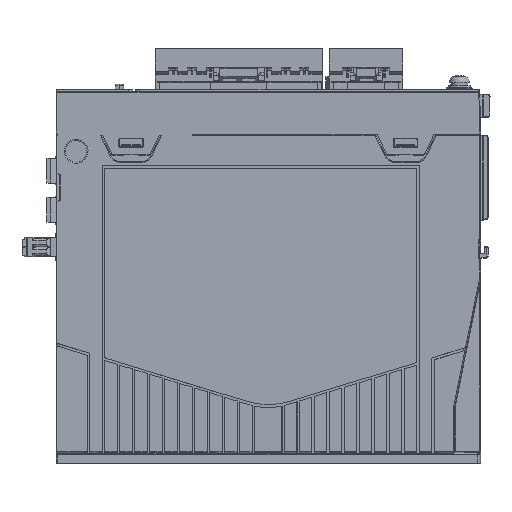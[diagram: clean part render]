
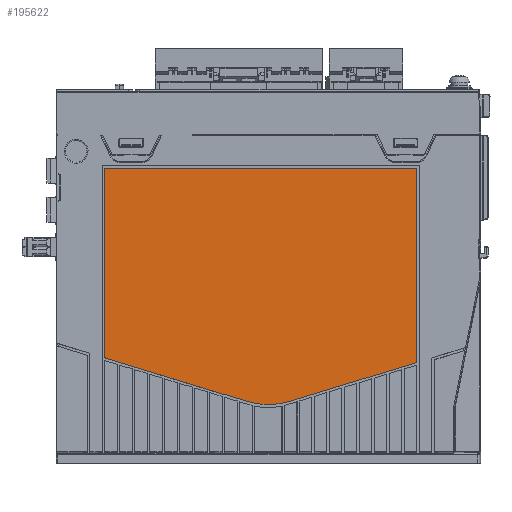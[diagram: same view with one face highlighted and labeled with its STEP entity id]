
A CAD part, left-side view. The second image highlights one B-rep face of the part: STEP entity #195622.
In plain terms, the highlighted planar face has unit normal (-1, 0, 0).
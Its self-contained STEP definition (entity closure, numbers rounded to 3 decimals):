
#79330=CARTESIAN_POINT('',(0.2,150.495,
118.196));
#79332=DIRECTION('',(0.,0.,-1.));
#79333=VECTOR('',#79332,75.704);
#79334=CARTESIAN_POINT('',(0.2,150.495,
118.196));
#79335=LINE('',#79334,#79333);
#79340=CARTESIAN_POINT('',(0.2,25.505,
40.662));
#79341=CARTESIAN_POINT('',(0.2,25.505,
40.617));
#79342=CARTESIAN_POINT('',(0.2,25.523,
40.538));
#79343=CARTESIAN_POINT('',(0.2,25.6,
40.434));
#79344=CARTESIAN_POINT('',(0.2,25.671,
40.393));
#79345=CARTESIAN_POINT('',(0.2,25.714,
40.38));
#79347=DIRECTION('',(0.,0.956,-0.292));
#79348=VECTOR('',#79347,53.131);
#79349=CARTESIAN_POINT('',(0.2,25.714,
40.38));
#79350=LINE('',#79349,#79348);
#79351=CARTESIAN_POINT('',(0.2,85.001,
52.572));
#79352=DIRECTION('',(1.,0.,0.));
#79353=DIRECTION('',(0.,-0.292,-0.956));
#79354=AXIS2_PLACEMENT_3D('',#79351,#79352,#79353);
#79356=DIRECTION('',(0.,0.956,0.292));
#79357=VECTOR('',#79356,59.404);
#79358=CARTESIAN_POINT('',(0.2,93.477,
24.844));
#79359=LINE('',#79358,#79357);
#79360=CARTESIAN_POINT('',(0.2,150.2,42.492));
#79361=DIRECTION('',(1.,0.,0.));
#79362=DIRECTION('',(0.,0.292,-0.956));
#79363=AXIS2_PLACEMENT_3D('',#79360,#79361,#79362);
#79365=DIRECTION('',(0.,-1.,0.));
#79366=VECTOR('',#79365,124.99);
#79367=CARTESIAN_POINT('',(0.2,150.495,
118.196));
#79368=LINE('',#79367,#79366);
#79369=DIRECTION('',(0.,0.,-1.));
#79370=VECTOR('',#79369,77.533);
#79371=CARTESIAN_POINT('',(0.2,25.505,
118.195));
#79372=LINE('',#79371,#79370);
#88115=CARTESIAN_POINT('',(0.2,150.495,
42.492));
#88116=VERTEX_POINT('',#88115);
#88117=VERTEX_POINT('',#79330);
#88118=CARTESIAN_POINT('',(0.2,150.286,
42.21));
#88119=VERTEX_POINT('',#88118);
#88120=VERTEX_POINT('',#79340);
#88121=VERTEX_POINT('',#79345);
#88122=CARTESIAN_POINT('',(0.2,76.523,
24.844));
#88123=VERTEX_POINT('',#88122);
#88124=CARTESIAN_POINT('',(0.2,93.477,
24.844));
#88125=VERTEX_POINT('',#88124);
#88126=CARTESIAN_POINT('',(0.2,25.505,
118.195));
#88127=VERTEX_POINT('',#88126);
#195601=CARTESIAN_POINT('',(0.2,88.,70.886));
#195602=DIRECTION('',(1.,0.,0.));
#195603=DIRECTION('',(0.,0.,1.));
#195604=AXIS2_PLACEMENT_3D('',#195601,#195602,#195603);
#195605=PLANE('',#195604);
#195607=ORIENTED_EDGE('',*,*,#195606,.T.);
#195609=ORIENTED_EDGE('',*,*,#195608,.T.);
#195611=ORIENTED_EDGE('',*,*,#195610,.T.);
#195613=ORIENTED_EDGE('',*,*,#195612,.T.);
#195614=ORIENTED_EDGE('',*,*,#195585,.T.);
#195615=ORIENTED_EDGE('',*,*,#195568,.F.);
#195617=ORIENTED_EDGE('',*,*,#195616,.T.);
#195619=ORIENTED_EDGE('',*,*,#195618,.T.);
#195620=EDGE_LOOP('',(#195607,#195609,#195611,#195613,#195614,#195615,#195617,
#195619));
#195621=FACE_OUTER_BOUND('',#195620,.F.);
#79346=B_SPLINE_CURVE_WITH_KNOTS('',3,(#79340,#79341,#79342,#79343,#79344,
#79345),.UNSPECIFIED.,.F.,.F.,(4,1,1,4),(0.,0.333,
0.667,1.),.UNSPECIFIED.);
#79355=CIRCLE('',#79354,28.995);
#79364=CIRCLE('',#79363,0.295);
#195568=EDGE_CURVE('',#88117,#88116,#79335,.T.);
#195585=EDGE_CURVE('',#88119,#88116,#79364,.T.);
#195606=EDGE_CURVE('',#88120,#88121,#79346,.T.);
#195608=EDGE_CURVE('',#88121,#88123,#79350,.T.);
#195610=EDGE_CURVE('',#88123,#88125,#79355,.T.);
#195612=EDGE_CURVE('',#88125,#88119,#79359,.T.);
#195616=EDGE_CURVE('',#88117,#88127,#79368,.T.);
#195618=EDGE_CURVE('',#88127,#88120,#79372,.T.);
#195622=ADVANCED_FACE('',(#195621),#195605,.F.);
